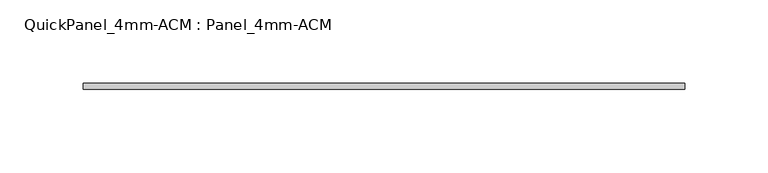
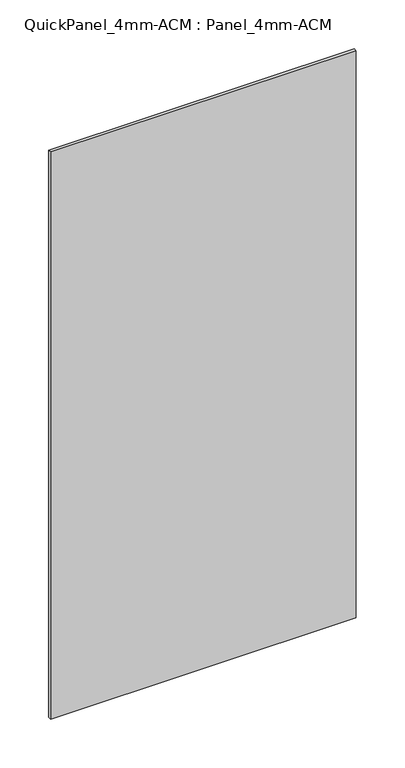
"""IFC4 building model written with IfcOpenShell, lengths in millimetres: plate geometry, QuickPanel_4mm-ACM : Panel_4mm-ACM."""

from ifc_helpers import new_model, si_unit, origin, origin_with_axes, place, context, project, spatial, polyline, outline, extrude, source, transform, mapped, element, save


def quickpanel_4mm_acm_panel_4mm_acm_03b4451d(model_context):
    return source(origin(), model_context, "Body", "SweptSolid", [
        extrude(outline(polyline([(-181.0107026, -6.096), (181.0107026, -6.096), (181.0107026, -9.906), (-181.0107026, -9.906), (-181.0107026, -6.096)])), origin_with_axes(), (0.0, 0.0, 1.0), 710.147382),
    ])


if __name__ == "__main__":
    model = new_model("IFC4")
    model_context = context("Model", 3, world=origin())
    ifc_project = project(units=[si_unit("LENGTHUNIT", "METRE", prefix="MILLI")], contexts=[model_context])
    site = spatial("IfcSite", under=ifc_project)
    building = spatial("IfcBuilding", under=site)
    placement = place(None, origin())
    quickpanel_4mm_acm_panel_4mm_acm_shape = quickpanel_4mm_acm_panel_4mm_acm_03b4451d(model_context)
    element("IfcPlate", 1, ObjectType="QuickPanel_4mm-ACM : Panel_4mm-ACM", at=placement, inside=building, context=model_context, shape_type="MappedRepresentation", body=[
        mapped(quickpanel_4mm_acm_panel_4mm_acm_shape, transform((0.0, 0.0, 0.0), x_axis=(1.0, 0.0, 0.0), y_axis=(0.0, 1.0, 0.0), z_axis=(0.0, 0.0, 1.0))),
    ])
    save(model, "model.ifc")
